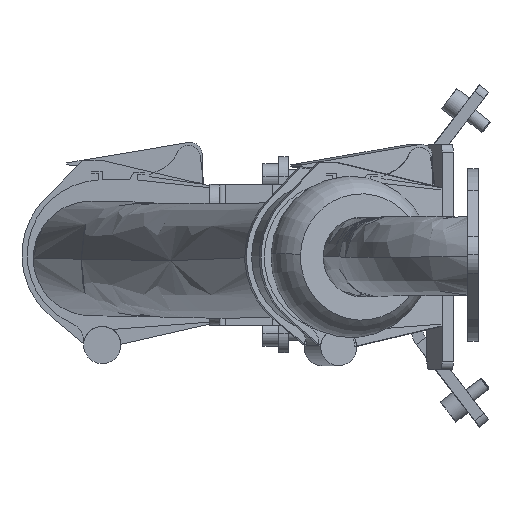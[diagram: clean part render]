
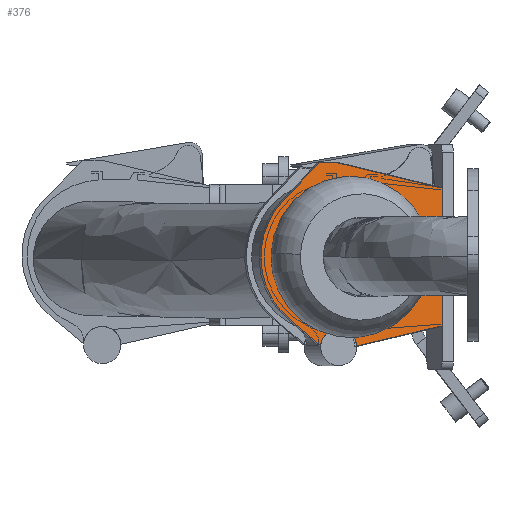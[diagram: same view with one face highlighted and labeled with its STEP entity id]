
A CAD part, left-side view. The second image highlights one B-rep face of the part: STEP entity #376.
In plain terms, the highlighted planar face has unit normal (-0.966, -0.259, 0).
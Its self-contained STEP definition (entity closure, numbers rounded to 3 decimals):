
#259 = LINE ( 'NONE', #7855, #8006 ) ;
#270 = EDGE_CURVE ( 'NONE', #1376, #6041, #5802, .T. ) ;
#314 = CARTESIAN_POINT ( 'NONE',  ( 1181.78, 151.205, 2219.264 ) ) ;
#376 = ADVANCED_FACE ( 'NONE', ( #7000, #3727 ), #8414, .F. ) ;
#399 = VERTEX_POINT ( 'NONE', #6901 ) ;
#592 = CARTESIAN_POINT ( 'NONE',  ( 1176.87, 169.529, 2219.641 ) ) ;
#854 = CARTESIAN_POINT ( 'NONE',  ( 1171.55, 189.381, 2257.029 ) ) ;
#865 = EDGE_CURVE ( 'NONE', #6041, #3483, #3702, .T. ) ;
#1255 = ORIENTED_EDGE ( 'NONE', *, *, #6915, .F. ) ;
#1258 = AXIS2_PLACEMENT_3D ( 'NONE', #3930, #1638, #8516 ) ;
#1355 = CARTESIAN_POINT ( 'NONE',  ( 1171.55, 189.381, 2257.029 ) ) ;
#1376 = VERTEX_POINT ( 'NONE', #314 ) ;
#1416 = AXIS2_PLACEMENT_3D ( 'NONE', #4806, #8834, #2622 ) ;
#1638 = DIRECTION ( 'NONE',  ( 0.966, 0.259, 0. ) ) ;
#1730 = CARTESIAN_POINT ( 'NONE',  ( 1172.575, 185.556, 2233.308 ) ) ;
#1832 = VERTEX_POINT ( 'NONE', #7131 ) ;
#1898 = VECTOR ( 'NONE', #2277, 1000. ) ;
#2061 = CARTESIAN_POINT ( 'NONE',  ( 1171.55, 189.381, 2257.029 ) ) ;
#2277 = DIRECTION ( 'NONE',  ( -0.182, 0.679, -0.711 ) ) ;
#2467 = LINE ( 'NONE', #6296, #1898 ) ;
#2622 = DIRECTION ( 'NONE',  ( 0., 0., -1. ) ) ;
#2801 = EDGE_CURVE ( 'NONE', #399, #8574, #6669, .T. ) ;
#2912 = CARTESIAN_POINT ( 'NONE',  ( 1172.575, 185.556, 2233.308 ) ) ;
#3146 = CARTESIAN_POINT ( 'NONE',  ( 1171.776, 188.538, 2293.781 ) ) ;
#3205 = DIRECTION ( 'NONE',  ( 0., 0., 1. ) ) ;
#3247 =( BOUNDED_CURVE ( )  B_SPLINE_CURVE ( 3, ( #2061, #5167, #6810, #6710 ),
 .UNSPECIFIED., .F., .T. ) 
 B_SPLINE_CURVE_WITH_KNOTS ( ( 4, 4 ),
 ( 1.931, 5.072 ),
 .UNSPECIFIED. ) 
 CURVE ( )  GEOMETRIC_REPRESENTATION_ITEM ( )  RATIONAL_B_SPLINE_CURVE ( ( 1., 0.333, 0.333, 1. ) ) 
 REPRESENTATION_ITEM ( '' )  );
#3276 = VERTEX_POINT ( 'NONE', #9920 ) ;
#3313 =( BOUNDED_CURVE ( )  B_SPLINE_CURVE ( 3, ( #5989, #7472, #4458, #1355 ),
 .UNSPECIFIED., .F., .T. ) 
 B_SPLINE_CURVE_WITH_KNOTS ( ( 4, 4 ),
 ( 5.072, 8.214 ),
 .UNSPECIFIED. ) 
 CURVE ( )  GEOMETRIC_REPRESENTATION_ITEM ( )  RATIONAL_B_SPLINE_CURVE ( ( 1., 0.333, 0.333, 1. ) ) 
 REPRESENTATION_ITEM ( '' )  );
#3483 = VERTEX_POINT ( 'NONE', #592 ) ;
#3702 = CIRCLE ( 'NONE', #9394, 9.5 ) ;
#3727 = FACE_OUTER_BOUND ( 'NONE', #4314, .T. ) ;
#3842 = CIRCLE ( 'NONE', #1416, 41. ) ;
#3847 = AXIS2_PLACEMENT_3D ( 'NONE', #7806, #6278, #9379 ) ;
#3930 = CARTESIAN_POINT ( 'NONE',  ( 1179.322, 160.376, 2264.954 ) ) ;
#4273 = DIRECTION ( 'NONE',  ( -0.259, 0.966, 0. ) ) ;
#4314 = EDGE_LOOP ( 'NONE', ( #1255, #6608, #8259, #4457, #5705, #7300, #8760, #4531, #6582 ) ) ;
#4457 = ORIENTED_EDGE ( 'NONE', *, *, #5235, .T. ) ;
#4458 = CARTESIAN_POINT ( 'NONE',  ( 1173.857, 180.772, 2194.661 ) ) ;
#4461 = LINE ( 'NONE', #5278, #9141 ) ;
#4493 = LINE ( 'NONE', #2912, #9004 ) ;
#4505 = VERTEX_POINT ( 'NONE', #3146 ) ;
#4531 = ORIENTED_EDGE ( 'NONE', *, *, #8471, .T. ) ;
#4806 = CARTESIAN_POINT ( 'NONE',  ( 1179.322, 160.376, 2264.954 ) ) ;
#5167 = CARTESIAN_POINT ( 'NONE',  ( 1169.244, 197.989, 2319.396 ) ) ;
#5235 = EDGE_CURVE ( 'NONE', #1376, #9416, #4461, .T. ) ;
#5255 = LINE ( 'NONE', #5962, #9485 ) ;
#5278 = CARTESIAN_POINT ( 'NONE',  ( 1182.01, 150.344, 2219.467 ) ) ;
#5553 = EDGE_CURVE ( 'NONE', #9416, #399, #259, .T. ) ;
#5705 = ORIENTED_EDGE ( 'NONE', *, *, #5553, .T. ) ;
#5802 = CIRCLE ( 'NONE', #3847, 9.5 ) ;
#5865 = VERTEX_POINT ( 'NONE', #854 ) ;
#5962 = CARTESIAN_POINT ( 'NONE',  ( 1176.734, 170.036, 2313.154 ) ) ;
#5989 = CARTESIAN_POINT ( 'NONE',  ( 1187.692, 129.139, 2265.94 ) ) ;
#6041 = VERTEX_POINT ( 'NONE', #8025 ) ;
#6101 = DIRECTION ( 'NONE',  ( -0.966, -0.259, 0. ) ) ;
#6278 = DIRECTION ( 'NONE',  ( -0.966, -0.259, 0. ) ) ;
#6296 = CARTESIAN_POINT ( 'NONE',  ( 1171.776, 188.538, 2293.781 ) ) ;
#6582 = ORIENTED_EDGE ( 'NONE', *, *, #8579, .T. ) ;
#6608 = ORIENTED_EDGE ( 'NONE', *, *, #865, .F. ) ;
#6669 = LINE ( 'NONE', #6723, #8121 ) ;
#6710 = CARTESIAN_POINT ( 'NONE',  ( 1187.692, 129.139, 2265.94 ) ) ;
#6723 = CARTESIAN_POINT ( 'NONE',  ( 1179.322, 160.376, 2313.154 ) ) ;
#6798 = DIRECTION ( 'NONE',  ( -0.2, 0.746, 0.636 ) ) ;
#6810 = CARTESIAN_POINT ( 'NONE',  ( 1185.385, 137.748, 2328.308 ) ) ;
#6900 = EDGE_LOOP ( 'NONE', ( #8660, #9636 ) ) ;
#6901 = CARTESIAN_POINT ( 'NONE',  ( 1193.557, 107.25, 2300.254 ) ) ;
#6915 = EDGE_CURVE ( 'NONE', #3483, #7179, #4493, .T. ) ;
#7000 = FACE_BOUND ( 'NONE', #6900, .T. ) ;
#7131 = CARTESIAN_POINT ( 'NONE',  ( 1176.734, 170.036, 2313.154 ) ) ;
#7179 = VERTEX_POINT ( 'NONE', #1730 ) ;
#7300 = ORIENTED_EDGE ( 'NONE', *, *, #2801, .T. ) ;
#7472 = CARTESIAN_POINT ( 'NONE',  ( 1189.999, 120.53, 2203.573 ) ) ;
#7806 = CARTESIAN_POINT ( 'NONE',  ( 1179.322, 160.376, 2218.954 ) ) ;
#7855 = CARTESIAN_POINT ( 'NONE',  ( 1193.557, 107.25, 2300.254 ) ) ;
#8006 = VECTOR ( 'NONE', #3205, 1000. ) ;
#8016 = CARTESIAN_POINT ( 'NONE',  ( 1179.322, 160.376, 2313.154 ) ) ;
#8025 = CARTESIAN_POINT ( 'NONE',  ( 1179.322, 160.376, 2228.454 ) ) ;
#8121 = VECTOR ( 'NONE', #9883, 1000. ) ;
#8259 = ORIENTED_EDGE ( 'NONE', *, *, #270, .F. ) ;
#8378 = DIRECTION ( 'NONE',  ( 0.252, -0.942, 0.223 ) ) ;
#8414 = PLANE ( 'NONE',  #1258 ) ;
#8426 = CARTESIAN_POINT ( 'NONE',  ( 1193.557, 107.25, 2229.654 ) ) ;
#8471 = EDGE_CURVE ( 'NONE', #1832, #4505, #2467, .T. ) ;
#8516 = DIRECTION ( 'NONE',  ( 0., 0., -1. ) ) ;
#8574 = VERTEX_POINT ( 'NONE', #8016 ) ;
#8579 = EDGE_CURVE ( 'NONE', #4505, #7179, #3842, .T. ) ;
#8660 = ORIENTED_EDGE ( 'NONE', *, *, #9477, .T. ) ;
#8760 = ORIENTED_EDGE ( 'NONE', *, *, #9881, .T. ) ;
#8775 = EDGE_CURVE ( 'NONE', #5865, #3276, #3247, .T. ) ;
#8834 = DIRECTION ( 'NONE',  ( -0.966, -0.259, 0. ) ) ;
#9004 = VECTOR ( 'NONE', #6798, 1000. ) ;
#9141 = VECTOR ( 'NONE', #8378, 1000. ) ;
#9208 = DIRECTION ( 'NONE',  ( 0., 0., -1. ) ) ;
#9379 = DIRECTION ( 'NONE',  ( 0., 0., -1. ) ) ;
#9394 = AXIS2_PLACEMENT_3D ( 'NONE', #9991, #6101, #9208 ) ;
#9416 = VERTEX_POINT ( 'NONE', #8426 ) ;
#9477 = EDGE_CURVE ( 'NONE', #3276, #5865, #3313, .T. ) ;
#9485 = VECTOR ( 'NONE', #4273, 1000. ) ;
#9636 = ORIENTED_EDGE ( 'NONE', *, *, #8775, .T. ) ;
#9881 = EDGE_CURVE ( 'NONE', #8574, #1832, #5255, .T. ) ;
#9883 = DIRECTION ( 'NONE',  ( -0.252, 0.94, 0.228 ) ) ;
#9920 = CARTESIAN_POINT ( 'NONE',  ( 1187.692, 129.139, 2265.94 ) ) ;
#9991 = CARTESIAN_POINT ( 'NONE',  ( 1179.322, 160.376, 2218.954 ) ) ;
